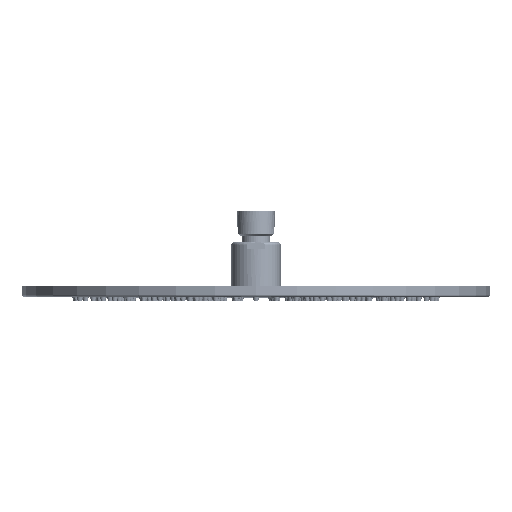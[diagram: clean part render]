
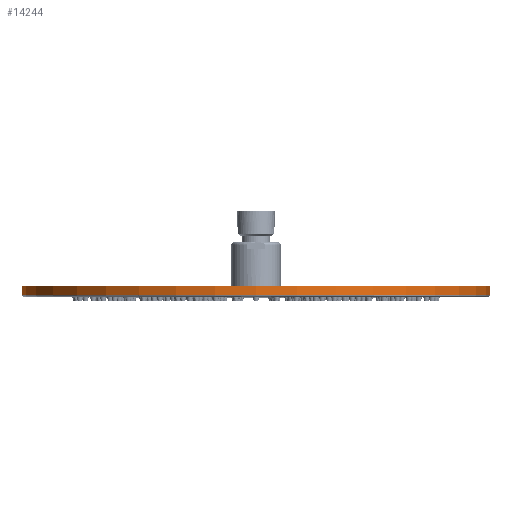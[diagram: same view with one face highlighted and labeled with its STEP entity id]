
A CAD part, top view. The second image highlights one B-rep face of the part: STEP entity #14244.
In plain terms, the highlighted cylindrical face has radius 151.5 mm (diameter 303 mm), a partial arc.
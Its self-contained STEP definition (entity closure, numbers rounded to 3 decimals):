
#2696=CARTESIAN_POINT('',(0.,1.3,0.));
#2697=DIRECTION('',(0.,1.,0.));
#2698=DIRECTION('',(-1.,0.,0.));
#2699=AXIS2_PLACEMENT_3D('',#2696,#2697,#2698);
#2711=DIRECTION('',(0.,-1.,0.));
#2712=VECTOR('',#2711,5.7);
#2713=CARTESIAN_POINT('',(-151.5,7.,0.));
#2714=LINE('',#2713,#2712);
#2715=DIRECTION('',(0.,-1.,0.));
#2716=VECTOR('',#2715,5.7);
#2717=CARTESIAN_POINT('',(151.5,7.,0.));
#2718=LINE('',#2717,#2716);
#2719=CARTESIAN_POINT('',(0.,7.,0.));
#2720=DIRECTION('',(0.,-1.,0.));
#2721=DIRECTION('',(1.,0.,0.));
#2722=AXIS2_PLACEMENT_3D('',#2719,#2720,#2721);
#10837=CARTESIAN_POINT('',(151.5,1.3,0.));
#10838=VERTEX_POINT('',#10837);
#10839=CARTESIAN_POINT('',(-151.5,1.3,0.));
#10840=VERTEX_POINT('',#10839);
#10841=CARTESIAN_POINT('',(151.5,7.,0.));
#10842=VERTEX_POINT('',#10841);
#10843=CARTESIAN_POINT('',(-151.5,7.,0.));
#10844=VERTEX_POINT('',#10843);
#14232=CARTESIAN_POINT('',(0.,-0.35,0.));
#14233=DIRECTION('',(0.,1.,0.));
#14234=DIRECTION('',(1.,0.,0.));
#14235=AXIS2_PLACEMENT_3D('',#14232,#14233,#14234);
#14236=CYLINDRICAL_SURFACE('',#14235,151.5);
#14237=ORIENTED_EDGE('',*,*,#14222,.T.);
#14238=ORIENTED_EDGE('',*,*,#14199,.F.);
#14239=ORIENTED_EDGE('',*,*,#14226,.F.);
#14241=ORIENTED_EDGE('',*,*,#14240,.F.);
#14242=EDGE_LOOP('',(#14237,#14238,#14239,#14241));
#14243=FACE_OUTER_BOUND('',#14242,.F.);
#14244=ADVANCED_FACE('',(#14243),#14236,.T.);
#2700=CIRCLE('',#2699,151.5);
#2723=CIRCLE('',#2722,151.5);
#14199=EDGE_CURVE('',#10840,#10838,#2700,.T.);
#14222=EDGE_CURVE('',#10842,#10838,#2718,.T.);
#14226=EDGE_CURVE('',#10844,#10840,#2714,.T.);
#14240=EDGE_CURVE('',#10842,#10844,#2723,.T.);
